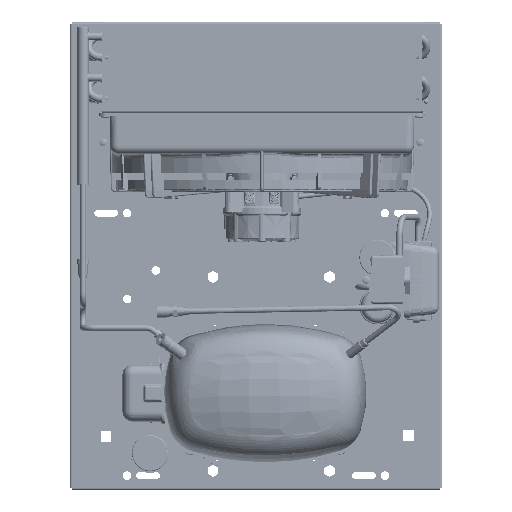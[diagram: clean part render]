
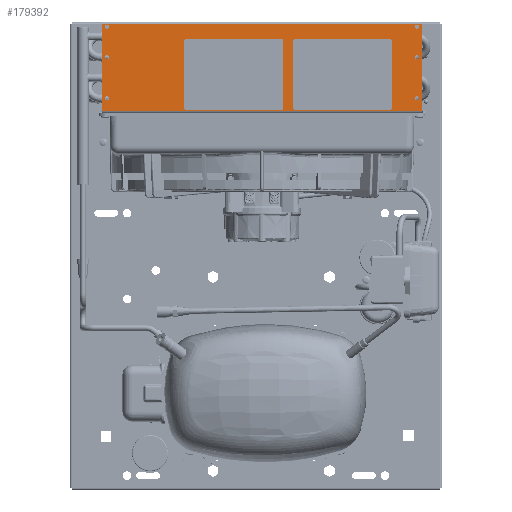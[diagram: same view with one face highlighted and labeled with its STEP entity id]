
A CAD part, top view. The second image highlights one B-rep face of the part: STEP entity #179392.
In plain terms, the highlighted planar face has unit normal (0, 0, 1).
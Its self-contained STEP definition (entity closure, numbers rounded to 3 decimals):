
#20381=LINE('',#297119,#29194);
#20394=LINE('',#297166,#29207);
#20398=LINE('',#297175,#29211);
#20400=LINE('',#297179,#29213);
#29194=VECTOR('',#257227,1000.);
#29207=VECTOR('',#257274,1000.);
#29211=VECTOR('',#257284,1000.);
#29213=VECTOR('',#257290,1000.);
#40481=ORIENTED_EDGE('',*,*,#94927,.F.);
#40482=ORIENTED_EDGE('',*,*,#94928,.F.);
#40483=ORIENTED_EDGE('',*,*,#94929,.F.);
#40484=ORIENTED_EDGE('',*,*,#94930,.F.);
#40485=ORIENTED_EDGE('',*,*,#94931,.F.);
#40486=ORIENTED_EDGE('',*,*,#94932,.F.);
#40487=ORIENTED_EDGE('',*,*,#94919,.T.);
#40488=ORIENTED_EDGE('',*,*,#94924,.F.);
#40489=ORIENTED_EDGE('',*,*,#94896,.F.);
#40490=ORIENTED_EDGE('',*,*,#94926,.T.);
#94896=EDGE_CURVE('',#122623,#122624,#20381,.T.);
#94919=EDGE_CURVE('',#122641,#122639,#20394,.T.);
#94924=EDGE_CURVE('',#122624,#122639,#20398,.T.);
#94926=EDGE_CURVE('',#122623,#122641,#20400,.T.);
#94927=EDGE_CURVE('',#122643,#122643,#140781,.T.);
#94928=EDGE_CURVE('',#122644,#122644,#140782,.T.);
#94929=EDGE_CURVE('',#122645,#122645,#140783,.T.);
#94930=EDGE_CURVE('',#122646,#122646,#140784,.T.);
#94931=EDGE_CURVE('',#122647,#122647,#140785,.T.);
#94932=EDGE_CURVE('',#122648,#122648,#140786,.T.);
#122623=VERTEX_POINT('',#297118);
#122624=VERTEX_POINT('',#297120);
#122639=VERTEX_POINT('',#297164);
#122641=VERTEX_POINT('',#297167);
#122643=VERTEX_POINT('',#297182);
#122644=VERTEX_POINT('',#297184);
#122645=VERTEX_POINT('',#297186);
#122646=VERTEX_POINT('',#297188);
#122647=VERTEX_POINT('',#297190);
#122648=VERTEX_POINT('',#297192);
#140781=CIRCLE('',#239071,2.25);
#140782=CIRCLE('',#239072,2.25);
#140783=CIRCLE('',#239073,2.25);
#140784=CIRCLE('',#239074,2.25);
#140785=CIRCLE('',#239075,2.25);
#140786=CIRCLE('',#239076,2.25);
#147957=EDGE_LOOP('',(#40481));
#147958=EDGE_LOOP('',(#40482));
#147959=EDGE_LOOP('',(#40483));
#147960=EDGE_LOOP('',(#40484));
#147961=EDGE_LOOP('',(#40485));
#147962=EDGE_LOOP('',(#40486));
#147963=EDGE_LOOP('',(#40487,#40488,#40489,#40490));
#161691=FACE_BOUND('',#147957,.T.);
#161692=FACE_BOUND('',#147958,.T.);
#161693=FACE_BOUND('',#147959,.T.);
#161694=FACE_BOUND('',#147960,.T.);
#161695=FACE_BOUND('',#147961,.T.);
#161696=FACE_BOUND('',#147962,.T.);
#161697=FACE_BOUND('',#147963,.T.);
#173871=PLANE('',#239070);
#179392=ADVANCED_FACE('',(#161691,#161692,#161693,#161694,#161695,#161696,
#161697),#173871,.F.);
#239070=AXIS2_PLACEMENT_3D('',#297180,#257291,#257292);
#239071=AXIS2_PLACEMENT_3D('',#297181,#257293,#257294);
#239072=AXIS2_PLACEMENT_3D('',#297183,#257295,#257296);
#239073=AXIS2_PLACEMENT_3D('',#297185,#257297,#257298);
#239074=AXIS2_PLACEMENT_3D('',#297187,#257299,#257300);
#239075=AXIS2_PLACEMENT_3D('',#297189,#257301,#257302);
#239076=AXIS2_PLACEMENT_3D('',#297191,#257303,#257304);
#257227=DIRECTION('',(1.,0.,0.));
#257274=DIRECTION('',(1.,0.,0.));
#257284=DIRECTION('',(0.,-1.,0.));
#257290=DIRECTION('',(0.,-1.,0.));
#257291=DIRECTION('',(0.,0.,-1.));
#257292=DIRECTION('',(-1.,0.,0.));
#257293=DIRECTION('',(0.,0.,1.));
#257294=DIRECTION('',(0.,1.,0.));
#257295=DIRECTION('',(0.,0.,1.));
#257296=DIRECTION('',(0.,1.,0.));
#257297=DIRECTION('',(0.,0.,1.));
#257298=DIRECTION('',(0.,1.,0.));
#257299=DIRECTION('',(0.,0.,1.));
#257300=DIRECTION('',(0.,1.,0.));
#257301=DIRECTION('',(0.,0.,1.));
#257302=DIRECTION('',(0.,1.,0.));
#257303=DIRECTION('',(0.,0.,1.));
#257304=DIRECTION('',(0.,1.,0.));
#297118=CARTESIAN_POINT('',(-45.5,167.5,0.));
#297119=CARTESIAN_POINT('',(-47.5,167.5,0.));
#297120=CARTESIAN_POINT('',(45.5,167.5,0.));
#297164=CARTESIAN_POINT('',(45.5,-167.5,0.));
#297166=CARTESIAN_POINT('',(-47.5,-167.5,0.));
#297167=CARTESIAN_POINT('',(-45.5,-167.5,0.));
#297175=CARTESIAN_POINT('',(45.5,167.5,0.));
#297179=CARTESIAN_POINT('',(-45.5,167.5,0.));
#297180=CARTESIAN_POINT('',(-47.5,167.5,0.));
#297181=CARTESIAN_POINT('',(42.5,162.5,0.));
#297182=CARTESIAN_POINT('',(42.5,164.75,0.));
#297183=CARTESIAN_POINT('',(42.5,-162.5,0.));
#297184=CARTESIAN_POINT('',(42.5,-160.25,0.));
#297185=CARTESIAN_POINT('',(-32.5,-162.5,0.));
#297186=CARTESIAN_POINT('',(-32.5,-160.25,0.));
#297187=CARTESIAN_POINT('',(-32.5,162.5,0.));
#297188=CARTESIAN_POINT('',(-32.5,164.75,0.));
#297189=CARTESIAN_POINT('',(10.5,-162.5,0.));
#297190=CARTESIAN_POINT('',(10.5,-160.25,0.));
#297191=CARTESIAN_POINT('',(10.5,162.5,0.));
#297192=CARTESIAN_POINT('',(10.5,164.75,0.));
